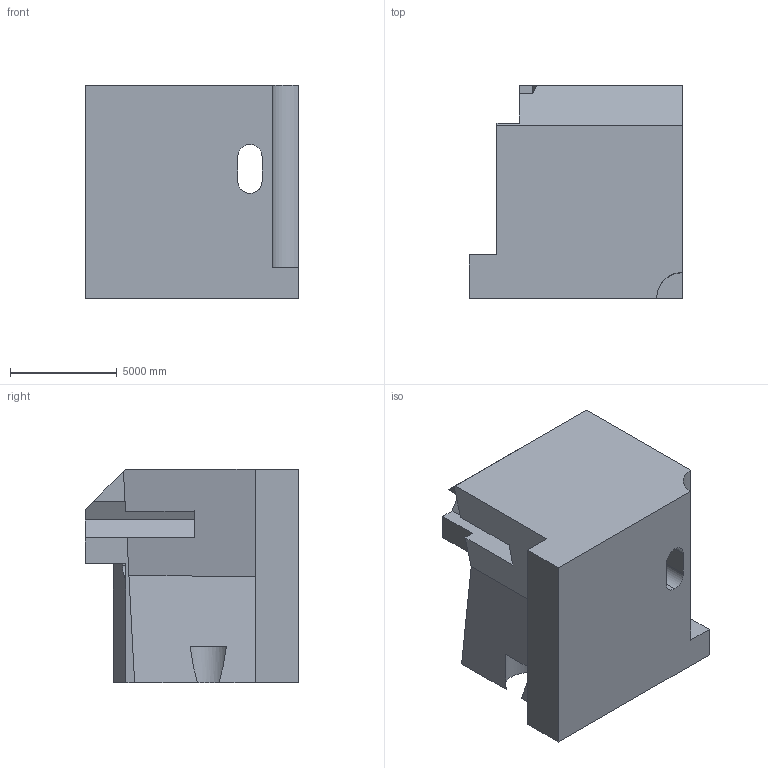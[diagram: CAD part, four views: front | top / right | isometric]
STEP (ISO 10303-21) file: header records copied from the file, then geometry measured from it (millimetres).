
FILE_DESCRIPTION (( 'STEP AP203' ), '1' );
FILE_NAME ('359.STEP', '2022-09-07T13:10:13', ( 'user' ), ( '' ), 'SwSTEP 2.0', 'SolidWorks 2021', '' );
FILE_SCHEMA (( 'CONFIG_CONTROL_DESIGN' ));
Length unit declared in the file: centimetre
Products named in the file (1): 359
Bounding box: 10000 x 10000 x 10000 mm (x, y, z)
Volume: 701003773188.3 mm3; surface area: 610870925.1 mm2
Topology: 1 solids, 1 shells, 33 faces, 96 edges, 64 vertices
Faces by surface type: plane 28, cylinder 5
Entity records: 1159 total; most frequent: CARTESIAN_POINT 206, ORIENTED_EDGE 192, DIRECTION 168, EDGE_CURVE 96, VECTOR 84, LINE 84, VERTEX_POINT 64, AXIS2_PLACEMENT_3D 42
